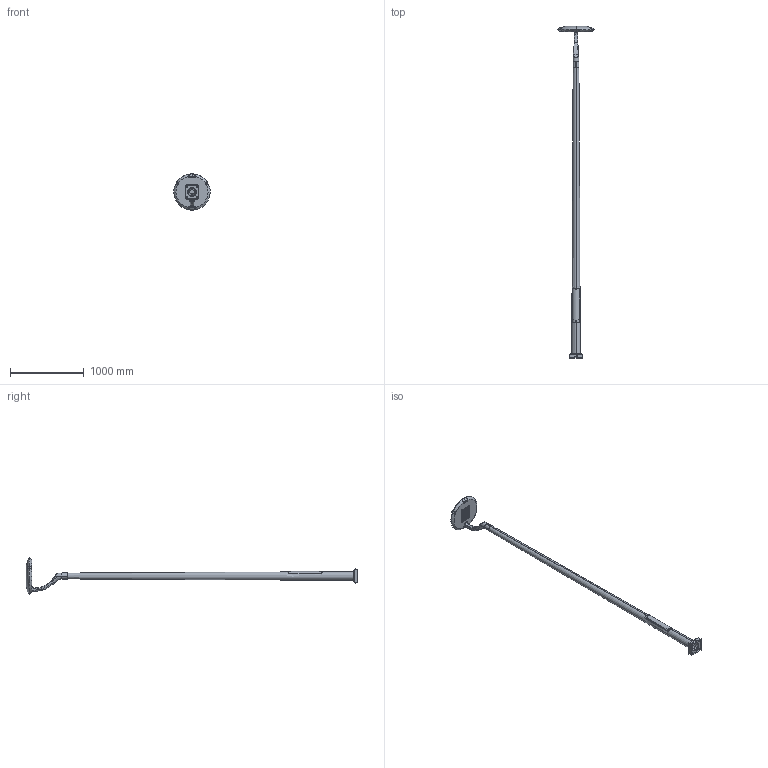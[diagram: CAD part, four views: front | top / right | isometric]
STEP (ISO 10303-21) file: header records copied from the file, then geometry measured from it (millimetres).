
FILE_DESCRIPTION (( 'STEP AP214' ), '1' );
FILE_NAME ('orba-1-4(40C)-(Ê170-130-4õ14)-ö+ïî.STEP', '2021-07-08T14:25:54', ( '' ), ( '' ), 'SwSTEP 2.0', 'SolidWorks 2020', '' );
FILE_SCHEMA (( 'AUTOMOTIVE_DESIGN' ));
Length unit declared in the file: millimetre
Products named in the file (19): Òðóáà 76õ80-orba; Ñòîéêà ÎÊÊô-4,0 Ò76-orba; BS-170(Ä119) -Ïîëóêðûøêà; Êðåïëåíèå ñâåòèëüíèêà MOON-STAR-C-40Âò; BS-170(Ä119)-Ïîëóêðûøêà; Êðûøêà ëþêà ÎÊÊ-4-orba; Ñòàíäàðíûå_Ðåçüáîâàÿ çàêë¸ïêà Ì6_Šàã£« ï à¥§ì¡®¢ ï § ª«¥¯ª  Œ8 á æ¨«¨­¤à¨ç¥áª¨¬ ¡ãàâ®¬ ®âªàëâ®£® â¨¯  ¨§ ­¥à¦ ¢¥îé¥© áâ «¨; DIN-ðåéêà_ŽƒŠ-6; socket button head screw_iso_ISO 7380 - M6 x 16 - 16N; 170õ170õ10 (121),ì.ö.130, 4õ14_Ôëàíåö; ÎÊÊô-4,0 Ò76 (Ê170-130-4õ14)-orba; Ñâåòèëüíèê òîðøåðíûé MOON-STAR-C-40Âò; Ïëàíêà çàçåìëåíèÿ 35õ20; BS-170(Ä119)-Ïëàòèê; Ñâåòèëüíèê òîðøåðíûé  MOON-STAR -C, 40 Âò_’®àè¥à D; orba-1-4(40C)-(Ê170-130-4õ14)-ö+ïî; BS- 170(Ä119)-Äåêîðàòèâíûé öîêîëü
Assembly tree (24 placements, depth 4):
  orba-1-4(40C)-(Ê170-130-4õ14)-ö+ïî
    ÎÊÊô-4,0 Ò76 (Ê170-130-4õ14)-orba
      Ñòîéêà ÎÊÊô-4,0 Ò76-orba
        Ñòîéêà ÎÊÊô-4,0 Ò76-orba
        170õ170õ10 (121),ì.ö.130, 4õ14_Ôëàíåö
        Ïëàíêà çàçåìëåíèÿ 35õ20
        DIN-ðåéêà_ŽƒŠ-6
        Òðóáà 76õ80-orba
      Êðûøêà ëþêà ÎÊÊ-4-orba
      Ñòàíäàðíûå_Ðåçüáîâàÿ çàêë¸ïêà Ì6_Šàã£« ï à¥§ì¡®¢ ï § ª«¥¯ª  Œ8 á æ¨«¨­¤à¨ç¥áª¨¬ ¡ãàâ®¬ ®âªàëâ®£® â¨¯  ¨§ ­¥à¦ ¢¥îé¥© áâ «¨  x2
      socket button head screw_iso_ISO 7380 - M6 x 16 - 16N  x2
    Ñâåòèëüíèê òîðøåðíûé  MOON-STAR -C, 40 Âò_’®àè¥à D
      Ñâåòèëüíèê òîðøåðíûé MOON-STAR-C-40Âò
      Êðåïëåíèå ñâåòèëüíèêà MOON-STAR-C-40Âò
    BS- 170(Ä119)-Äåêîðàòèâíûé öîêîëü
      BS-170(Ä119) -Ïîëóêðûøêà
        BS-170(Ä119)-Ïîëóêðûøêà
        BS-170(Ä119)-Ïëàòèê
      BS-170(Ä119) -Ïîëóêðûøêà
        BS-170(Ä119)-Ïîëóêðûøêà
        BS-170(Ä119)-Ïëàòèê
      socket button head screw_iso_ISO 7380 - M6 x 16 - 16N  x2
Bounding box: 489.21 x 4489.07 x 490 mm (x, y, z)
Volume: 16413026.1 mm3; surface area: 3314428 mm2
Topology: 21 solids, 21 shells, 907 faces, 2009 edges, 1258 vertices
Faces by surface type: plane 363, cone 256, cylinder 194, torus 43, bspline 43, sphere 8
Entity records: 28330 total; most frequent: CARTESIAN_POINT 7379, DIRECTION 3661, ORIENTED_EDGE 3256, EDGE_CURVE 1628, AXIS2_PLACEMENT_3D 1483, VERTEX_POINT 1041, EDGE_LOOP 881, CIRCLE 753
